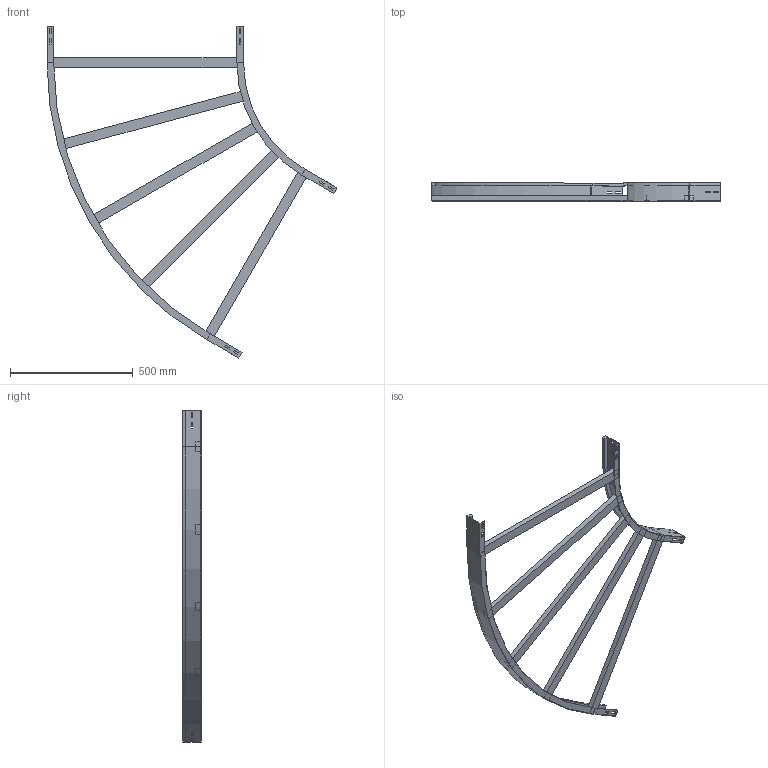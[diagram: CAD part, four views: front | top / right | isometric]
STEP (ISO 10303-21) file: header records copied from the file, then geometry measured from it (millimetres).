
FILE_DESCRIPTION (( 'STEP AP214' ), '1' );
FILE_NAME ('13B5C800.step', '2025-02-21T15:20:53', ( '' ), ( '' ), 'SwSTEP 2.0', 'SolidWorks 2023', '' );
FILE_SCHEMA (( 'AUTOMOTIVE_DESIGN' ));
Length unit declared in the file: millimetre
Products named in the file (4): A2_LONGH.INTERNO 60°_H75_R500; TRAVERSINO_800; 13B5C800; A2_LONGH.ESTERNO 60°_H75_R500+800
Assembly tree (7 placements, depth 2):
  13B5C800
    A2_LONGH.INTERNO 60°_H75_R500
    A2_LONGH.ESTERNO 60°_H75_R500+800
    TRAVERSINO_800  x5
Bounding box: 1179.9 x 75 x 1350.83 mm (x, y, z)
Volume: 4192974.6 mm3; surface area: 1074625.5 mm2
Topology: 7 solids, 7 shells, 146 faces, 364 edges, 232 vertices
Faces by surface type: plane 138, cylinder 8
Entity records: 3837 total; most frequent: CARTESIAN_POINT 648, ORIENTED_EDGE 632, DIRECTION 596, EDGE_CURVE 316, VECTOR 300, LINE 300, VERTEX_POINT 200, EDGE_LOOP 154
